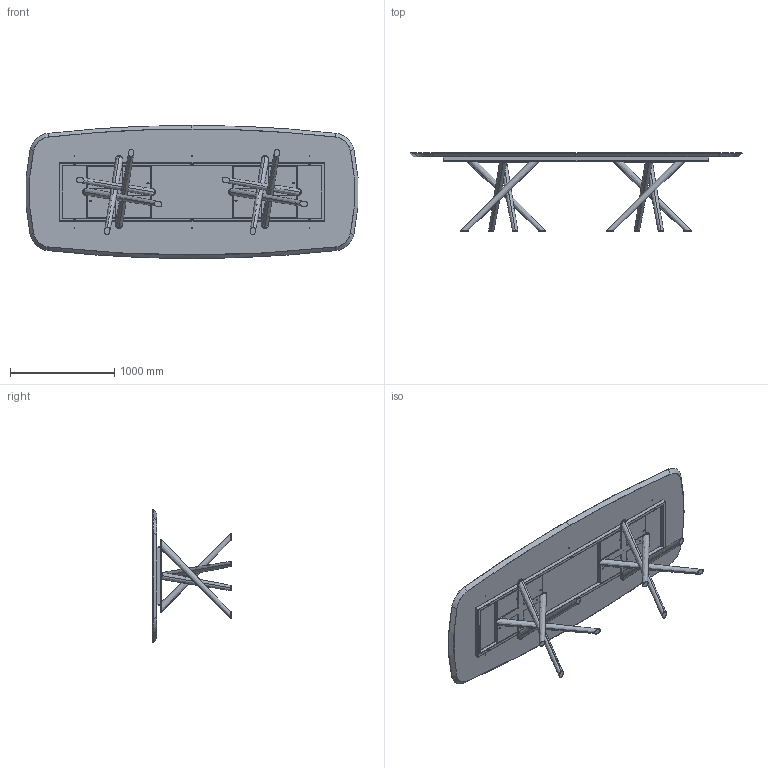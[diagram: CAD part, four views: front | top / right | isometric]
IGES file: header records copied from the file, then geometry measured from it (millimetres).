
Start section: SolidWorks IGES file using analytic representation for surfaces
Global section: file name: Y:\eforma\TECNICO\SOLIDWORKS\E-FORMA\1-TAVOLI\BALY\02 parts\BA45W.IGS; native system: SolidWorks 2022; preprocessor: SolidWorks 2022; author: eforma.tech; date: 240808.075542; units: millimetre
Bounding box: 3190.14 x 753 x 1280 mm (x, y, z)
Volume: 149024490.5 mm3; surface area: 14150299.7 mm2
Topology: 22 solids, 22 shells, 627 faces, 1534 edges, 933 vertices
Faces by surface type: revolution 341, plane 270, bspline 16
